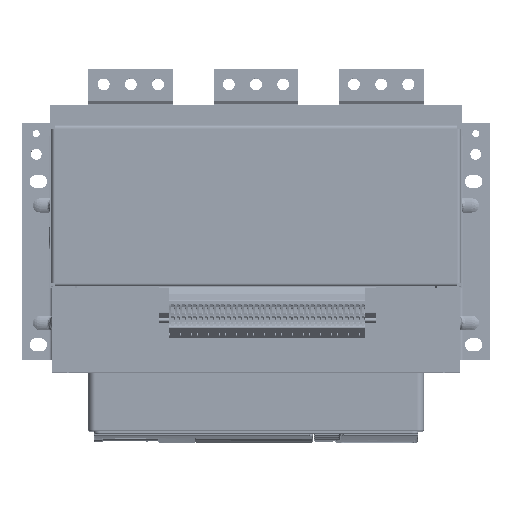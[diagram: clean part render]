
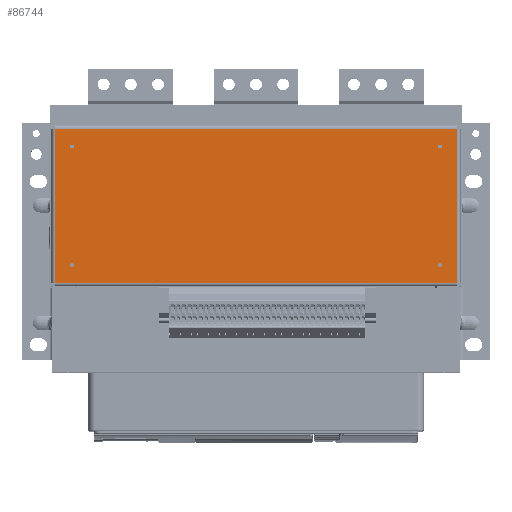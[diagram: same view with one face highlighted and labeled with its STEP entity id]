
A CAD part, top view. The second image highlights one B-rep face of the part: STEP entity #86744.
In plain terms, the highlighted planar face has unit normal (0, 0, 1) as drawn and (0, -1, 0) by its records, which use the part's own axes.
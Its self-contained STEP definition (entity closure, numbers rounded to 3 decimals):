
#3946=FACE_BOUND('',#12433,.T.);
#3947=FACE_BOUND('',#12434,.T.);
#3948=FACE_BOUND('',#12435,.T.);
#3949=FACE_BOUND('',#12436,.T.);
#7515=FACE_OUTER_BOUND('',#12432,.T.);
#12432=EDGE_LOOP('',(#72881,#72882,#72883,#72884));
#12433=EDGE_LOOP('',(#72885));
#12434=EDGE_LOOP('',(#72886));
#12435=EDGE_LOOP('',(#72887));
#12436=EDGE_LOOP('',(#72888));
#16224=CIRCLE('',#93743,1.75);
#16225=CIRCLE('',#93744,1.75);
#16226=CIRCLE('',#93745,1.75);
#16227=CIRCLE('',#93746,1.75);
#23001=LINE('',#189318,#31588);
#23002=LINE('',#189323,#31589);
#23003=LINE('',#189325,#31590);
#23004=LINE('',#189326,#31591);
#31588=VECTOR('',#112451,142.);
#31589=VECTOR('',#112458,370.);
#31590=VECTOR('',#112459,142.);
#31591=VECTOR('',#112460,370.);
#40103=VERTEX_POINT('',#189316);
#40104=VERTEX_POINT('',#189317);
#40105=VERTEX_POINT('',#189322);
#40106=VERTEX_POINT('',#189324);
#40107=VERTEX_POINT('',#189327);
#40108=VERTEX_POINT('',#189329);
#40109=VERTEX_POINT('',#189331);
#40110=VERTEX_POINT('',#189333);
#51420=EDGE_CURVE('',#40103,#40104,#23001,.T.);
#51423=EDGE_CURVE('',#40104,#40105,#23002,.T.);
#51424=EDGE_CURVE('',#40106,#40105,#23003,.T.);
#51425=EDGE_CURVE('',#40106,#40103,#23004,.T.);
#51426=EDGE_CURVE('',#40107,#40107,#16224,.T.);
#51427=EDGE_CURVE('',#40108,#40108,#16225,.T.);
#51428=EDGE_CURVE('',#40109,#40109,#16226,.T.);
#51429=EDGE_CURVE('',#40110,#40110,#16227,.T.);
#72881=ORIENTED_EDGE('',*,*,#51420,.T.);
#72882=ORIENTED_EDGE('',*,*,#51423,.T.);
#72883=ORIENTED_EDGE('',*,*,#51424,.F.);
#72884=ORIENTED_EDGE('',*,*,#51425,.T.);
#72885=ORIENTED_EDGE('',*,*,#51426,.F.);
#72886=ORIENTED_EDGE('',*,*,#51427,.F.);
#72887=ORIENTED_EDGE('',*,*,#51428,.F.);
#72888=ORIENTED_EDGE('',*,*,#51429,.F.);
#81934=PLANE('',#93742);
#86744=ADVANCED_FACE('',(#7515,#3946,#3947,#3948,#3949),#81934,.F.);
#93742=AXIS2_PLACEMENT_3D('',#189321,#112456,#112457);
#93743=AXIS2_PLACEMENT_3D('',#189328,#112461,#112462);
#93744=AXIS2_PLACEMENT_3D('',#189330,#112463,#112464);
#93745=AXIS2_PLACEMENT_3D('',#189332,#112465,#112466);
#93746=AXIS2_PLACEMENT_3D('',#189334,#112467,#112468);
#112451=DIRECTION('',(0.,0.,1.));
#112456=DIRECTION('center_axis',(0.,1.,0.));
#112457=DIRECTION('ref_axis',(1.,0.,0.));
#112458=DIRECTION('',(-1.,0.,0.));
#112459=DIRECTION('',(0.,0.,1.));
#112460=DIRECTION('',(1.,0.,0.));
#112461=DIRECTION('center_axis',(0.,-1.,0.));
#112462=DIRECTION('ref_axis',(1.,0.,0.));
#112463=DIRECTION('center_axis',(0.,-1.,0.));
#112464=DIRECTION('ref_axis',(1.,0.,0.));
#112465=DIRECTION('center_axis',(0.,-1.,0.));
#112466=DIRECTION('ref_axis',(1.,0.,0.));
#112467=DIRECTION('center_axis',(0.,-1.,0.));
#112468=DIRECTION('ref_axis',(1.,0.,0.));
#189316=CARTESIAN_POINT('',(185.,-79.,-71.));
#189317=CARTESIAN_POINT('',(185.,-79.,71.));
#189318=CARTESIAN_POINT('',(185.,-79.,-71.));
#189321=CARTESIAN_POINT('Origin',(0.,-79.,0.));
#189322=CARTESIAN_POINT('',(-185.,-79.,71.));
#189323=CARTESIAN_POINT('',(185.,-79.,71.));
#189324=CARTESIAN_POINT('',(-185.,-79.,-71.));
#189325=CARTESIAN_POINT('',(-185.,-79.,-71.));
#189326=CARTESIAN_POINT('',(-185.,-79.,-71.));
#189327=CARTESIAN_POINT('',(167.25,-79.,54.5));
#189328=CARTESIAN_POINT('Origin',(169.,-79.,54.5));
#189329=CARTESIAN_POINT('',(167.25,-79.,-54.5));
#189330=CARTESIAN_POINT('Origin',(169.,-79.,-54.5));
#189331=CARTESIAN_POINT('',(-170.75,-79.,-54.5));
#189332=CARTESIAN_POINT('Origin',(-169.,-79.,-54.5));
#189333=CARTESIAN_POINT('',(-170.75,-79.,54.5));
#189334=CARTESIAN_POINT('Origin',(-169.,-79.,54.5));
